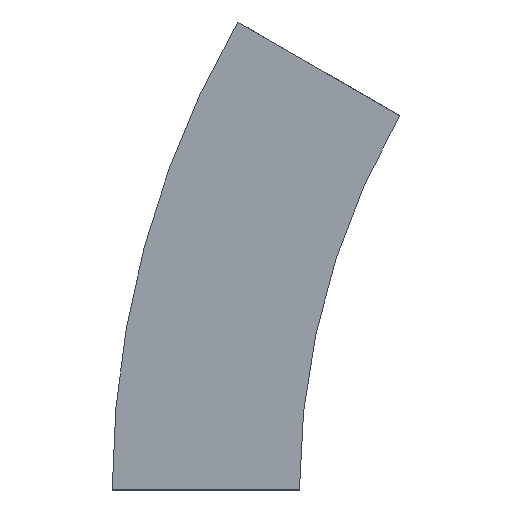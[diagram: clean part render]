
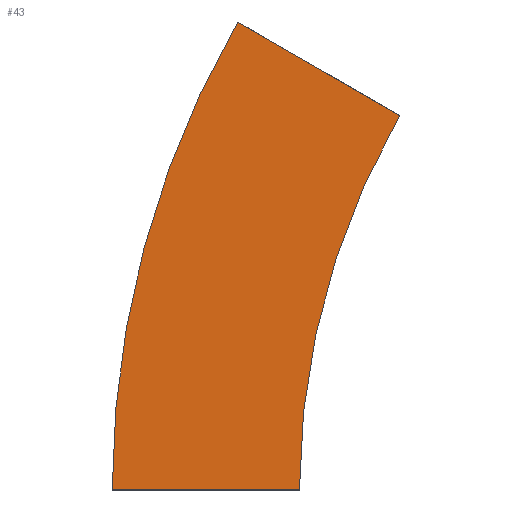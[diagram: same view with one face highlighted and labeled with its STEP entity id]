
A CAD part, left-side view. The second image highlights one B-rep face of the part: STEP entity #43.
In plain terms, the highlighted planar face has unit normal (-1, 0, 0) as drawn and (1, 0, 0) by its records, which use the part's own axes.
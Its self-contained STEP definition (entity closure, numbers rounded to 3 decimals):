
#4 = ORIENTED_EDGE ( 'NONE', *, *, #202, .T. ) ;
#43 = ADVANCED_FACE ( 'NONE', ( #362 ), #272, .T. ) ;
#49 = CARTESIAN_POINT ( 'NONE',  ( 0., 0., 0. ) ) ;
#59 = LINE ( 'NONE', #528, #246 ) ;
#65 = AXIS2_PLACEMENT_3D ( 'NONE', #516, #84, #223 ) ;
#84 = DIRECTION ( 'NONE',  ( 1., 0., 0. ) ) ;
#142 = AXIS2_PLACEMENT_3D ( 'NONE', #315, #483, #271 ) ;
#189 = VERTEX_POINT ( 'NONE', #472 ) ;
#192 = VERTEX_POINT ( 'NONE', #264 ) ;
#196 = VERTEX_POINT ( 'NONE', #226 ) ;
#202 = EDGE_CURVE ( 'NONE', #189, #196, #545, .T. ) ;
#223 = DIRECTION ( 'NONE',  ( 0., 1., 0. ) ) ;
#226 = CARTESIAN_POINT ( 'NONE',  ( 0., 24.76, 187.5 ) ) ;
#229 = DIRECTION ( 'NONE',  ( 0., 1., 0. ) ) ;
#231 = CARTESIAN_POINT ( 'NONE',  ( 0., 0., 0. ) ) ;
#237 = DIRECTION ( 'NONE',  ( 0., 0.866, 0.5 ) ) ;
#246 = VECTOR ( 'NONE', #237, 1000. ) ;
#264 = CARTESIAN_POINT ( 'NONE',  ( 0., -40.192, 150. ) ) ;
#270 = EDGE_LOOP ( 'NONE', ( #4, #518, #400, #408 ) ) ;
#271 = DIRECTION ( 'NONE',  ( 0., 1., 0. ) ) ;
#272 = PLANE ( 'NONE',  #403 ) ;
#315 = CARTESIAN_POINT ( 'NONE',  ( 0., -300., 0. ) ) ;
#332 = CARTESIAN_POINT ( 'NONE',  ( 0., 0., 0. ) ) ;
#340 = EDGE_CURVE ( 'NONE', #192, #196, #59, .T. ) ;
#362 = FACE_OUTER_BOUND ( 'NONE', #270, .T. ) ;
#398 = DIRECTION ( 'NONE',  ( 0., 0., -1. ) ) ;
#400 = ORIENTED_EDGE ( 'NONE', *, *, #429, .F. ) ;
#401 = EDGE_CURVE ( 'NONE', #521, #189, #440, .T. ) ;
#403 = AXIS2_PLACEMENT_3D ( 'NONE', #231, #438, #398 ) ;
#408 = ORIENTED_EDGE ( 'NONE', *, *, #401, .T. ) ;
#425 = CIRCLE ( 'NONE', #142, 300. ) ;
#429 = EDGE_CURVE ( 'NONE', #521, #192, #425, .T. ) ;
#438 = DIRECTION ( 'NONE',  ( 1., 0., 0. ) ) ;
#440 = LINE ( 'NONE', #49, #540 ) ;
#472 = CARTESIAN_POINT ( 'NONE',  ( 0., 75., 0. ) ) ;
#483 = DIRECTION ( 'NONE',  ( 1., 0., 0. ) ) ;
#516 = CARTESIAN_POINT ( 'NONE',  ( 0., -300., 0. ) ) ;
#518 = ORIENTED_EDGE ( 'NONE', *, *, #340, .F. ) ;
#521 = VERTEX_POINT ( 'NONE', #332 ) ;
#528 = CARTESIAN_POINT ( 'NONE',  ( 0., -40.192, 150. ) ) ;
#540 = VECTOR ( 'NONE', #229, 1000. ) ;
#545 = CIRCLE ( 'NONE', #65, 375. ) ;
